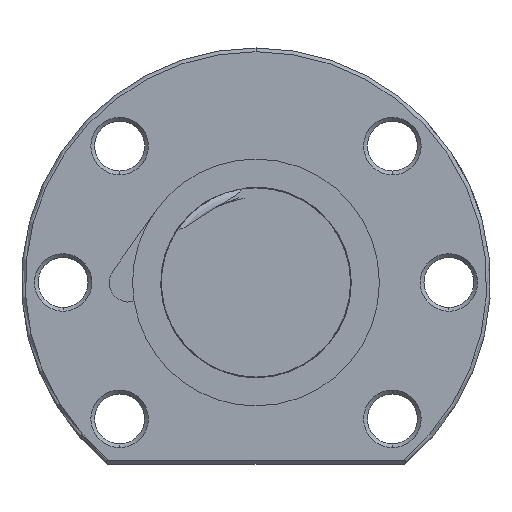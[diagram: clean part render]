
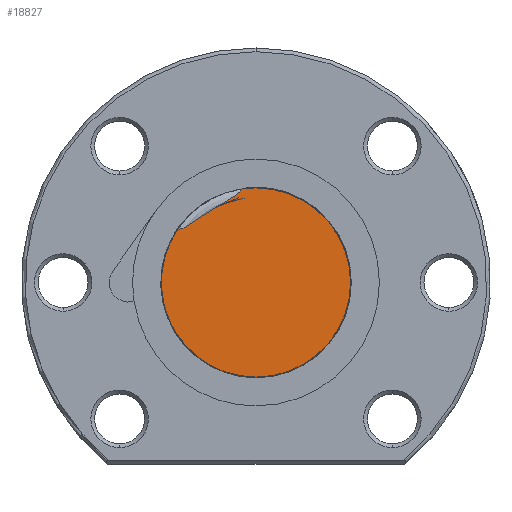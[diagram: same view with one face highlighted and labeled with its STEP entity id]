
A CAD part, left-side view. The second image highlights one B-rep face of the part: STEP entity #18827.
In plain terms, the highlighted planar face has unit normal (-1, 0, 0).
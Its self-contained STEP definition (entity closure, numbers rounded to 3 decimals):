
#1044 = CARTESIAN_POINT ( 'NONE',  ( -271., 3.147, 11.217 ) ) ;
#1045 = CARTESIAN_POINT ( 'NONE',  ( -271., 2.634, 11.582 ) ) ;
#1046 = CARTESIAN_POINT ( 'NONE',  ( -271., 2.466, 11.71 ) ) ;
#1047 = CARTESIAN_POINT ( 'NONE',  ( -271., 2.234, 11.925 ) ) ;
#1048 = CARTESIAN_POINT ( 'NONE',  ( -271., 2.161, 12. ) ) ;
#1049 = CARTESIAN_POINT ( 'NONE',  ( -271., 2.028, 12.163 ) ) ;
#1050 = CARTESIAN_POINT ( 'NONE',  ( -271., 1.968, 12.253 ) ) ;
#1051 = CARTESIAN_POINT ( 'NONE',  ( -271., 1.927, 12.351 ) ) ;
#1176 = CARTESIAN_POINT ( 'NONE',  ( -271., 10.355, 7.001 ) ) ;
#1177 = CARTESIAN_POINT ( 'NONE',  ( -271., 10.25, 6.997 ) ) ;
#1178 = CARTESIAN_POINT ( 'NONE',  ( -271., 10.144, 7.013 ) ) ;
#1179 = CARTESIAN_POINT ( 'NONE',  ( -271., 9.941, 7.062 ) ) ;
#1180 = CARTESIAN_POINT ( 'NONE',  ( -271., 9.842, 7.097 ) ) ;
#1181 = CARTESIAN_POINT ( 'NONE',  ( -271., 9.549, 7.214 ) ) ;
#1182 = CARTESIAN_POINT ( 'NONE',  ( -271., 9.363, 7.311 ) ) ;
#1183 = CARTESIAN_POINT ( 'NONE',  ( -271., 8.816, 7.619 ) ) ;
#1184 = CARTESIAN_POINT ( 'NONE',  ( -271., 8.464, 7.85 ) ) ;
#1271 = B_SPLINE_CURVE_WITH_KNOTS ( 'NONE', 3,
 ( #1051, #1050, #1049, #1048, #1047, #1046, #1045, #1044, #1280, #1279, #1278, #1277, #1276, #1275, #1274, #1273, #1184, #1183, #1182, #1181, #1180, #1179, #1178, #1177, #1176 ),
 .UNSPECIFIED., .F., .F.,
 ( 4, 2, 2, 2, 2, 2, 1, 2, 2, 2, 2, 2, 4 ),
 ( 0., 0.001, 0.001, 0.002, 0.003, 0.004, 0.005, 0.007, 0.008, 0.009, 0.01, 0.01, 0.01 ),
 .UNSPECIFIED. ) ;
#1273 = CARTESIAN_POINT ( 'NONE',  ( -271., 7.764, 8.313 ) ) ;
#1274 = CARTESIAN_POINT ( 'NONE',  ( -271., 7.416, 8.548 ) ) ;
#1275 = CARTESIAN_POINT ( 'NONE',  ( -271., 6.716, 9.011 ) ) ;
#1276 = CARTESIAN_POINT ( 'NONE',  ( -271., 6.013, 9.468 ) ) ;
#1277 = CARTESIAN_POINT ( 'NONE',  ( -271., 5.299, 9.909 ) ) ;
#1278 = CARTESIAN_POINT ( 'NONE',  ( -271., 4.582, 10.345 ) ) ;
#1279 = CARTESIAN_POINT ( 'NONE',  ( -271., 4.222, 10.561 ) ) ;
#1280 = CARTESIAN_POINT ( 'NONE',  ( -271., 3.505, 10.997 ) ) ;
#1281 = DIRECTION ( 'NONE',  ( 0., 0., -1. ) ) ;
#1282 = DIRECTION ( 'NONE',  ( 1., 0., 0. ) ) ;
#1283 = CARTESIAN_POINT ( 'NONE',  ( -271., 0., 0. ) ) ;
#1284 = AXIS2_PLACEMENT_3D ( 'NONE', #1283, #1282, #1281 ) ;
#1285 = PLANE ( 'NONE',  #1284 ) ;
#1306 = FACE_OUTER_BOUND ( 'NONE', #18828, .T. ) ;
#18357 = EDGE_CURVE ( 'NONE', #18389, #18376, #19797, .T. ) ;
#18367 = VERTEX_POINT ( 'NONE', #20068 ) ;
#18376 = VERTEX_POINT ( 'NONE', #20240 ) ;
#18378 = EDGE_CURVE ( 'NONE', #18376, #18367, #20242, .T. ) ;
#18388 = EDGE_CURVE ( 'NONE', #18425, #18389, #20361, .T. ) ;
#18389 = VERTEX_POINT ( 'NONE', #20356 ) ;
#18425 = VERTEX_POINT ( 'NONE', #20510 ) ;
#18827 = ADVANCED_FACE ( 'NONE', ( #1306 ), #1285, .F. ) ;
#18828 = EDGE_LOOP ( 'NONE', ( #18829, #18830, #18832, #18833 ) ) ;
#18829 = ORIENTED_EDGE ( 'NONE', *, *, #18388, .F. ) ;
#18830 = ORIENTED_EDGE ( 'NONE', *, *, #18831, .T. ) ;
#18831 = EDGE_CURVE ( 'NONE', #18425, #18367, #1271, .T. ) ;
#18832 = ORIENTED_EDGE ( 'NONE', *, *, #18378, .F. ) ;
#18833 = ORIENTED_EDGE ( 'NONE', *, *, #18357, .F. ) ;
#19797 = CIRCLE ( 'NONE', #19941, 12.5 ) ;
#19938 = DIRECTION ( 'NONE',  ( 0., 1., 0. ) ) ;
#19939 = DIRECTION ( 'NONE',  ( 1., 0., 0. ) ) ;
#19940 = CARTESIAN_POINT ( 'NONE',  ( -271., 0., 0. ) ) ;
#19941 = AXIS2_PLACEMENT_3D ( 'NONE', #19940, #19939, #19938 ) ;
#20068 = CARTESIAN_POINT ( 'NONE',  ( -271., 10.355, 7.001 ) ) ;
#20240 = CARTESIAN_POINT ( 'NONE',  ( -271., 0., -12.5 ) ) ;
#20242 = CIRCLE ( 'NONE', #20348, 12.5 ) ;
#20345 = DIRECTION ( 'NONE',  ( 0., 1., 0. ) ) ;
#20346 = DIRECTION ( 'NONE',  ( 1., 0., 0. ) ) ;
#20347 = CARTESIAN_POINT ( 'NONE',  ( -271., 0., 0. ) ) ;
#20348 = AXIS2_PLACEMENT_3D ( 'NONE', #20347, #20346, #20345 ) ;
#20356 = CARTESIAN_POINT ( 'NONE',  ( -271., 0., 12.5 ) ) ;
#20357 = DIRECTION ( 'NONE',  ( 0., 1., 0. ) ) ;
#20358 = DIRECTION ( 'NONE',  ( 1., 0., 0. ) ) ;
#20359 = CARTESIAN_POINT ( 'NONE',  ( -271., 0., 0. ) ) ;
#20360 = AXIS2_PLACEMENT_3D ( 'NONE', #20359, #20358, #20357 ) ;
#20361 = CIRCLE ( 'NONE', #20360, 12.5 ) ;
#20510 = CARTESIAN_POINT ( 'NONE',  ( -271., 1.927, 12.351 ) ) ;
